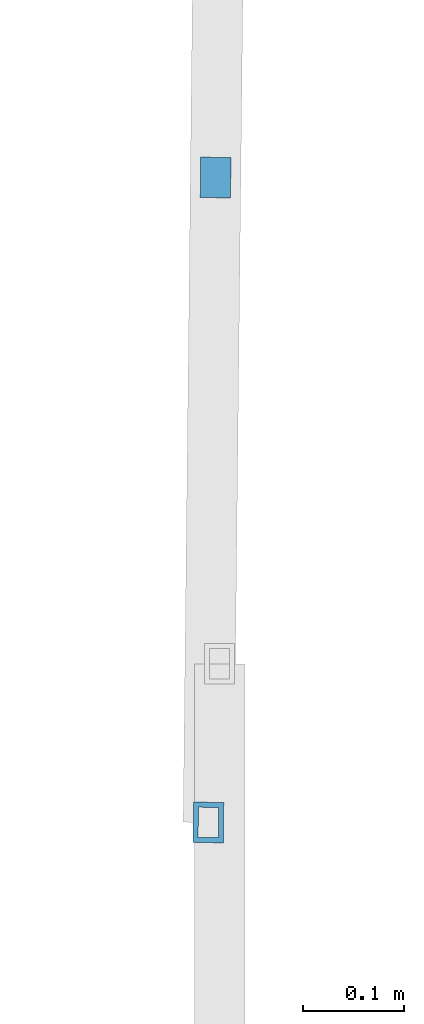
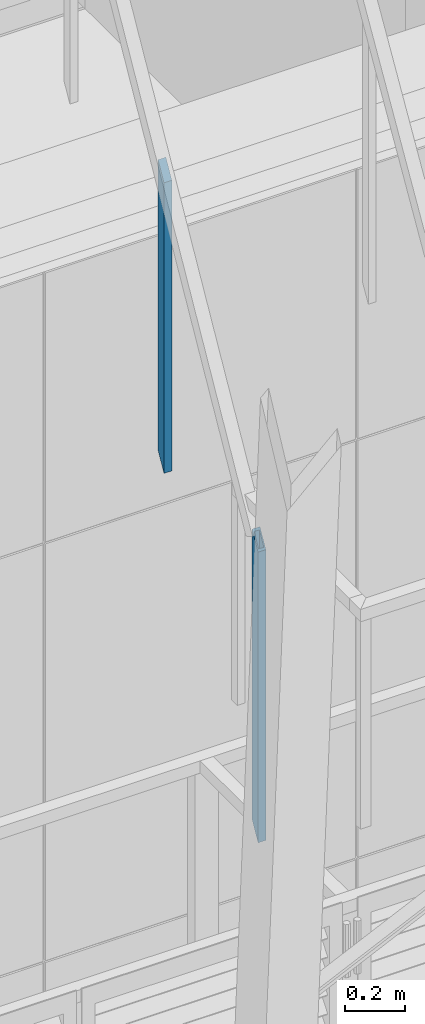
# One storey, part 7 of 418: 2 members, 1 element without a shape of its own.
"""IFC2X3 building model written with IfcOpenShell, lengths in millimetres."""

from ifc_helpers import new_model, entity, si_unit, converted_unit, derived_unit, money_unit, direction, frame, origin_with_axes, place, context, subcontext, project, spatial, faceted_brep, source, transform, mapped, material, type_object, element, aggregate, save


model = new_model("IFC2X3")

# Units and contexts
model_context = context("Model", 3, precision=0.01, world=origin_with_axes(), true_north=direction((0.0, 1.0)))
body_context = subcontext(model_context, "Body", "Model", "MODEL_VIEW")
ifc_project = project(units=[si_unit("LENGTHUNIT", "METRE", prefix="MILLI"), si_unit("AREAUNIT", "SQUARE_METRE"), si_unit("VOLUMEUNIT", "CUBIC_METRE"), converted_unit("PLANEANGLEUNIT", "DEGREE", entity("IfcPlaneAngleMeasure", 0.0174532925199), si_unit("PLANEANGLEUNIT", "RADIAN"), dimensions=[0, 0, 0, 0, 0, 0, 0]), si_unit("SOLIDANGLEUNIT", "STERADIAN"), money_unit("EUR"), converted_unit("TIMEUNIT", "Year", entity("IfcTimeMeasure", 31556926.0), si_unit("TIMEUNIT", "SECOND"), dimensions=[0, 0, 1, 0, 0, 0, 0]), si_unit("MASSUNIT", "GRAM", prefix="KILO"), si_unit("THERMODYNAMICTEMPERATUREUNIT", "DEGREE_CELSIUS"), si_unit("LUMINOUSINTENSITYUNIT", "LUMEN"), si_unit("ENERGYUNIT", "JOULE", prefix="MEGA"), derived_unit("THERMALCONDUCTANCEUNIT", [(si_unit("POWERUNIT", "WATT"), 1), (si_unit("LENGTHUNIT", "METRE"), -1), (si_unit("THERMODYNAMICTEMPERATUREUNIT", "KELVIN"), -1)]), derived_unit("SPECIFICHEATCAPACITYUNIT", [(si_unit("ENERGYUNIT", "JOULE"), 1), (si_unit("MASSUNIT", "GRAM", prefix="KILO"), -1), (si_unit("THERMODYNAMICTEMPERATUREUNIT", "KELVIN"), -1)]), derived_unit("MASSDENSITYUNIT", [(si_unit("MASSUNIT", "GRAM", prefix="KILO"), 1), (si_unit("VOLUMEUNIT", "CUBIC_METRE"), -1)])], contexts=[model_context])

# Site, building, storey
site_placement = place(None, origin_with_axes())
site = spatial("IfcSite", under=ifc_project, at=site_placement, Name="Paldiski mnt 245/1, Tallinn, Harjumaa", CompositionType="COMPLEX")
building_placement = place(site_placement, origin_with_axes())
building = spatial("IfcBuilding", under=site, at=building_placement, Name="RKAS Hoone üldnimetus (kasutust iseloomustav) -> IFC Project Manager -> SOLIBRI", CompositionType="ELEMENT")
storey_placement = place(building_placement, origin_with_axes())
storey = spatial("IfcBuildingStorey", under=building, at=storey_placement, Name="Esimene korrus", CompositionType="ELEMENT", Elevation=0.0)

# Railing, members
railing_type = type_object("IfcRailingType", Name="Railing Type", PredefinedType="NOTDEFINED")
railing_placement = place(storey_placement, frame((-54969.9885641, -6809.15801731, 6695.37509918), z_axis=(0.0, 0.0, 1.0), x_axis=(-0.779497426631, -0.626405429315, 0.0)))
railing = element("IfcRailing", 1, at=railing_placement, inside=storey, type_object=railing_type, Name="PIIRE", PredefinedType="NOTDEFINED")
ifc_material_1 = material(Name="ET-06_Teras - Konstruktsioon")
member_type = type_object("IfcMemberType", Name="IfcMember", PredefinedType="POST")
shared_shape_1 = source(origin_with_axes(), body_context, "Body", "Brep", [
    faceted_brep([(15.0, 20.0, 34.8015954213), (-15.0, 20.0, 34.8015954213), (-15.0, 20.0, 1214.80159542), (15.0, 20.0, 1214.80159542), (15.0, -20.0, -34.8015954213), (-15.0, -20.0, -34.8015954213), (10.0, 15.0, 26.101196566), (-10.0, 15.0, 26.101196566), (-10.0, -15.0, -26.101196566), (10.0, -15.0, -26.101196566), (-15.0, -20.0, 1145.19840458), (15.0, -20.0, 1145.19840458), (9.99999999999, 15.0, 1206.10119657), (9.99999999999, -15.0, 1153.89880343), (-10.0, -15.0, 1153.89880343), (-10.0, 15.0, 1206.10119657)], [[[0, 1, 2, 3]], [[0, 4, 5, 1], [6, 7, 8, 9]], [[1, 5, 10, 2]], [[3, 2, 10, 11], [12, 13, 14, 15]], [[4, 0, 3, 11]], [[5, 4, 11, 10]], [[7, 6, 12, 15]], [[8, 7, 15, 14]], [[9, 8, 14, 13]], [[6, 9, 13, 12]]]),
])
member_1_placement = place(railing_placement, frame((-27.1721807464, -65.8456378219, -100.0), z_axis=(0.0, 0.0, 1.0), x_axis=(-0.779497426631, 0.626405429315, 0.0)))
member_1 = element("IfcMember", 2, at=member_1_placement, type_object=member_type, material=ifc_material_1, Name="PIIRDE POST - 001", ObjectType="POST", context=body_context, shape_type="MappedRepresentation", body=[
    mapped(shared_shape_1, transform((0.0, 0.0, 0.0), x_axis=(0.99993780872, -0.011152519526, 0.0), y_axis=(0.011152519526, 0.99993780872, 0.0), z_axis=(0.0, 0.0, 1.0))),
])
ifc_material_2 = material(Name="ET-07_Teras - Roostevaba")
shared_shape_2 = source(origin_with_axes(), body_context, "Body", "Brep", [
    faceted_brep([(15.0, 20.0, 34.8015954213), (-15.0, 20.0, 34.8015954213), (-15.0, 20.0, 1214.80159542), (15.0, 20.0, 1214.80159542), (15.0, -20.0, -34.8015954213), (-15.0, -20.0, -34.8015954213), (-15.0, -20.0, 1145.19840458), (15.0, -20.0, 1145.19840458)], [[[0, 1, 2, 3]], [[0, 4, 5, 1]], [[1, 5, 6, 2]], [[3, 2, 6, 7]], [[4, 0, 3, 7]], [[5, 4, 7, 6]]]),
])
member_2_placement = place(railing_placement, frame((-432.44588955, -558.805369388, 1010.46006407), z_axis=(0.0, 0.0, 1.0), x_axis=(-0.779497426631, 0.626405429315, 0.0)))
member_2 = element("IfcMember", 3, at=member_2_placement, type_object=member_type, material=ifc_material_2, Name="Piirde Post - 001", ObjectType="POST", context=body_context, shape_type="MappedRepresentation", body=[
    mapped(shared_shape_2, transform((0.0, 0.0, 0.0), x_axis=(0.99993780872, -0.011152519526, 0.0), y_axis=(0.011152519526, 0.99993780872, 0.0), z_axis=(0.0, 0.0, 1.0))),
])
aggregate(railing, [member_1, member_2])

save(model, "model.ifc")
